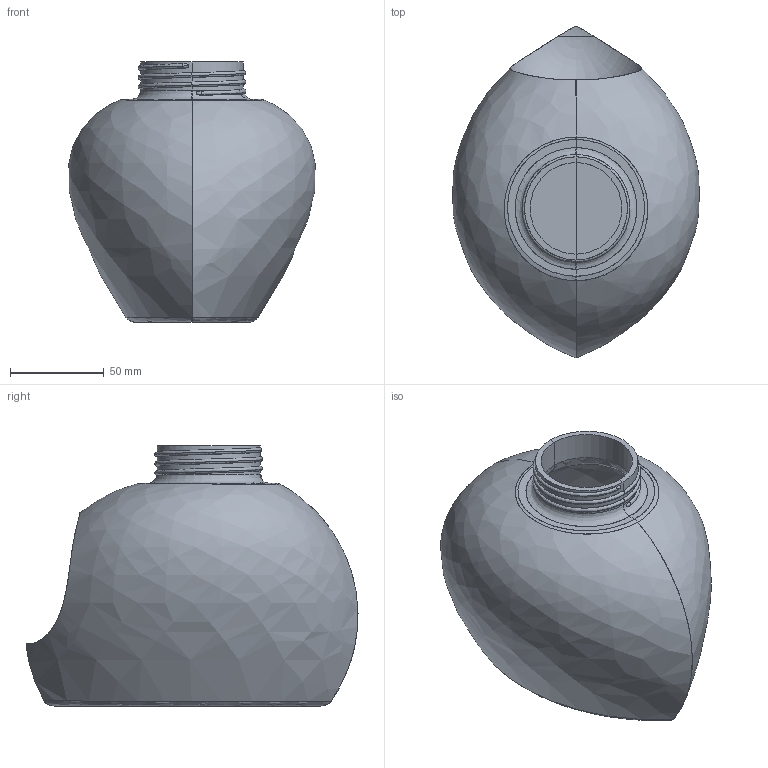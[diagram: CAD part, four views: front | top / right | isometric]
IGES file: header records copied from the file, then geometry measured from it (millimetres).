
Start section: START RECORD GO HERE.
Global section: file name: c1-Saus_Nin_Maria-solucion-posible.igs; native system: IBM CATIA IGES - CATIA Version 5 Release 19 ; preprocessor: CATIA Version 5 Release 19 ; author: andres.garcia; organization: IQS; date: 20200131.143940; units: millimetre
Bounding box: 131.66 x 177.45 x 139 mm (x, y, z)
Surface area: 134748.8 mm2 (no closed solid volume)
Topology: 0 solids, 0 shells, 54 faces, 252 edges, 248 vertices
Faces by surface type: bspline 32, revolution 16, plane 6
